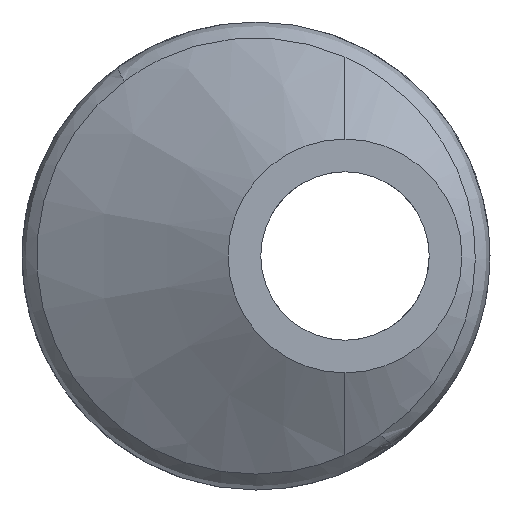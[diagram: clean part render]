
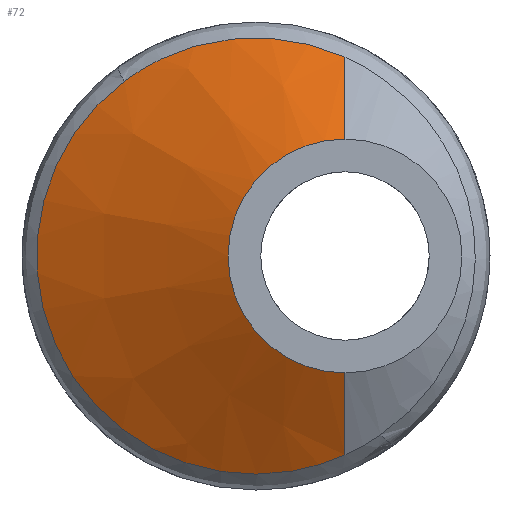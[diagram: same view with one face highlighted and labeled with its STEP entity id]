
A CAD part, left-side view. The second image highlights one B-rep face of the part: STEP entity #72.
In plain terms, the highlighted conical face has half-angle 60.409 degrees and reference radius 3.174 mm.
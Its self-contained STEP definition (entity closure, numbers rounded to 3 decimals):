
#23 = LINE ( 'NONE', #876, #345 ) ;
#40 = CARTESIAN_POINT ( 'NONE',  ( -26.348, 1.938, 5.61 ) ) ;
#69 = AXIS2_PLACEMENT_3D ( 'NONE', #1088, #416, #992 ) ;
#72 = ADVANCED_FACE ( 'NONE', ( #284 ), #759, .T. ) ;
#84 = LINE ( 'NONE', #721, #1074 ) ;
#85 = CARTESIAN_POINT ( 'NONE',  ( -26.317, 2.096, -5.559 ) ) ;
#90 = CARTESIAN_POINT ( 'NONE',  ( -25.632, 5.916, -0.674 ) ) ;
#93 = CARTESIAN_POINT ( 'NONE',  ( -25.852, 4.626, 3.75 ) ) ;
#109 = AXIS2_PLACEMENT_3D ( 'NONE', #524, #1004, #802 ) ;
#111 = CARTESIAN_POINT ( 'NONE',  ( -26.117, 3.146, 5.062 ) ) ;
#133 = CARTESIAN_POINT ( 'NONE',  ( -26.397, 1.688, 5.689 ) ) ;
#182 = CARTESIAN_POINT ( 'NONE',  ( -27.311, -2.415, -5.4 ) ) ;
#185 = CARTESIAN_POINT ( 'NONE',  ( -26.131, 3.072, -5.091 ) ) ;
#187 = CARTESIAN_POINT ( 'NONE',  ( -25.626, 5.953, -0.129 ) ) ;
#224 = EDGE_CURVE ( 'NONE', #328, #1172, #413, .T. ) ;
#275 = CARTESIAN_POINT ( 'NONE',  ( -27.146, -1.755, -5.661 ) ) ;
#278 = CARTESIAN_POINT ( 'NONE',  ( -25.973, 3.942, -4.458 ) ) ;
#284 = FACE_OUTER_BOUND ( 'NONE', #1106, .T. ) ;
#288 = CARTESIAN_POINT ( 'NONE',  ( -25.987, 3.863, 4.526 ) ) ;
#324 = CARTESIAN_POINT ( 'NONE',  ( -26.717, 0.128, 5.943 ) ) ;
#328 = VERTEX_POINT ( 'NONE', #1134 ) ;
#345 = VECTOR ( 'NONE', #583, 1000. ) ;
#354 = CARTESIAN_POINT ( 'NONE',  ( -27.311, -2.415, 5.4 ) ) ;
#374 = CARTESIAN_POINT ( 'NONE',  ( -26.903, -0.712, -5.886 ) ) ;
#378 = CARTESIAN_POINT ( 'NONE',  ( -25.84, 4.692, -3.668 ) ) ;
#381 = CARTESIAN_POINT ( 'NONE',  ( -25.657, 5.77, 1.499 ) ) ;
#382 = VERTEX_POINT ( 'NONE', #354 ) ;
#413 = B_SPLINE_CURVE_WITH_KNOTS ( 'NONE', 3,
 ( #762, #288, #811, #93, #665, #1244, #572, #1150, #474, #1051, #381, #953, #859, #187, #756, #90, #661, #1238, #569, #1147, #468, #1047, #378, #951, #278, #857, #185, #754, #85, #660, #1235, #564, #1142, #466, #1045, #374, #949, #275, #852, #182 ),
 .UNSPECIFIED., .F., .F.,
 ( 4, 2, 2, 2, 2, 2, 2, 2, 2, 2, 2, 2, 2, 2, 2, 2, 2, 2, 2, 4 ),
 ( 0.019, 0.02, 0.021, 0.022, 0.022, 0.023, 0.024, 0.025, 0.026, 0.027, 0.028, 0.029, 0.03, 0.031, 0.032, 0.033, 0.034, 0.034, 0.035, 0.036 ),
 .UNSPECIFIED. ) ;
#416 = DIRECTION ( 'NONE',  ( 1., 0., 0. ) ) ;
#422 = CARTESIAN_POINT ( 'NONE',  ( -27.07, -1.438, 5.763 ) ) ;
#466 = CARTESIAN_POINT ( 'NONE',  ( -26.747, -0.005, -5.923 ) ) ;
#468 = CARTESIAN_POINT ( 'NONE',  ( -25.739, 5.282, -2.757 ) ) ;
#474 = CARTESIAN_POINT ( 'NONE',  ( -25.708, 5.467, 2.352 ) ) ;
#475 = ORIENTED_EDGE ( 'NONE', *, *, #1163, .T. ) ;
#481 = ORIENTED_EDGE ( 'NONE', *, *, #773, .F. ) ;
#524 = CARTESIAN_POINT ( 'NONE',  ( -28.575, -2.415, 0. ) ) ;
#535 = CARTESIAN_POINT ( 'NONE',  ( -28.575, -2.415, -3.174 ) ) ;
#564 = CARTESIAN_POINT ( 'NONE',  ( -26.633, 0.532, -5.902 ) ) ;
#569 = CARTESIAN_POINT ( 'NONE',  ( -25.668, 5.699, -1.747 ) ) ;
#572 = CARTESIAN_POINT ( 'NONE',  ( -25.748, 5.227, 2.842 ) ) ;
#583 = DIRECTION ( 'NONE',  ( 0.494, 0., 0.87 ) ) ;
#587 = CARTESIAN_POINT ( 'NONE',  ( -26.205, 2.674, 5.323 ) ) ;
#605 = B_SPLINE_CURVE_WITH_KNOTS ( 'NONE', 3,
 ( #620, #1005, #422, #996, #324, #902, #799, #133, #40, #587, #111, #1073 ),
 .UNSPECIFIED., .F., .F.,
 ( 4, 2, 2, 2, 2, 4 ),
 ( 0.013, 0.014, 0.016, 0.017, 0.017, 0.019 ),
 .UNSPECIFIED. ) ;
#620 = CARTESIAN_POINT ( 'NONE',  ( -27.311, -2.415, 5.4 ) ) ;
#660 = CARTESIAN_POINT ( 'NONE',  ( -26.451, 1.414, -5.767 ) ) ;
#661 = CARTESIAN_POINT ( 'NONE',  ( -25.636, 5.892, -0.857 ) ) ;
#665 = CARTESIAN_POINT ( 'NONE',  ( -25.814, 4.845, 3.464 ) ) ;
#666 = CIRCLE ( 'NONE', #69, 3.174 ) ;
#721 = CARTESIAN_POINT ( 'NONE',  ( -28.575, -2.415, -3.174 ) ) ;
#739 = CARTESIAN_POINT ( 'NONE',  ( -28.575, -2.415, 3.174 ) ) ;
#754 = CARTESIAN_POINT ( 'NONE',  ( -26.252, 2.433, -5.422 ) ) ;
#756 = CARTESIAN_POINT ( 'NONE',  ( -25.627, 5.946, -0.31 ) ) ;
#759 = CONICAL_SURFACE ( 'NONE', #109, 3.174, 1.054 ) ;
#762 = CARTESIAN_POINT ( 'NONE',  ( -26.04, 3.573, 4.743 ) ) ;
#773 = EDGE_CURVE ( 'NONE', #1115, #1172, #84, .T. ) ;
#799 = CARTESIAN_POINT ( 'NONE',  ( -26.5, 1.175, 5.814 ) ) ;
#802 = DIRECTION ( 'NONE',  ( 0., 0., -1. ) ) ;
#810 = DIRECTION ( 'NONE',  ( 0.494, 0., -0.87 ) ) ;
#811 = CARTESIAN_POINT ( 'NONE',  ( -25.938, 4.136, 4.281 ) ) ;
#818 = VERTEX_POINT ( 'NONE', #739 ) ;
#852 = CARTESIAN_POINT ( 'NONE',  ( -27.229, -2.093, -5.544 ) ) ;
#857 = CARTESIAN_POINT ( 'NONE',  ( -26.076, 3.374, -4.898 ) ) ;
#859 = CARTESIAN_POINT ( 'NONE',  ( -25.627, 5.948, 0.415 ) ) ;
#876 = CARTESIAN_POINT ( 'NONE',  ( -28.575, -2.415, 3.174 ) ) ;
#902 = CARTESIAN_POINT ( 'NONE',  ( -26.553, 0.912, 5.86 ) ) ;
#912 = EDGE_CURVE ( 'NONE', #818, #382, #23, .T. ) ;
#949 = CARTESIAN_POINT ( 'NONE',  ( -26.983, -1.062, -5.832 ) ) ;
#951 = CARTESIAN_POINT ( 'NONE',  ( -25.925, 4.211, -4.207 ) ) ;
#953 = CARTESIAN_POINT ( 'NONE',  ( -25.633, 5.911, 0.778 ) ) ;
#992 = DIRECTION ( 'NONE',  ( 0., 0., -1. ) ) ;
#996 = CARTESIAN_POINT ( 'NONE',  ( -26.831, -0.396, 5.929 ) ) ;
#1004 = DIRECTION ( 'NONE',  ( 1., 0., 0. ) ) ;
#1005 = CARTESIAN_POINT ( 'NONE',  ( -27.19, -1.937, 5.613 ) ) ;
#1044 = ORIENTED_EDGE ( 'NONE', *, *, #224, .T. ) ;
#1045 = CARTESIAN_POINT ( 'NONE',  ( -26.786, -0.182, -5.92 ) ) ;
#1047 = CARTESIAN_POINT ( 'NONE',  ( -25.803, 4.906, -3.378 ) ) ;
#1051 = CARTESIAN_POINT ( 'NONE',  ( -25.674, 5.667, 1.847 ) ) ;
#1056 = ORIENTED_EDGE ( 'NONE', *, *, #1191, .T. ) ;
#1063 = ORIENTED_EDGE ( 'NONE', *, *, #912, .T. ) ;
#1073 = CARTESIAN_POINT ( 'NONE',  ( -26.04, 3.573, 4.743 ) ) ;
#1074 = VECTOR ( 'NONE', #810, 1000. ) ;
#1088 = CARTESIAN_POINT ( 'NONE',  ( -28.575, -2.415, 0. ) ) ;
#1093 = CARTESIAN_POINT ( 'NONE',  ( -27.311, -2.415, -5.4 ) ) ;
#1106 = EDGE_LOOP ( 'NONE', ( #1056, #1063, #475, #1044, #481 ) ) ;
#1115 = VERTEX_POINT ( 'NONE', #535 ) ;
#1134 = CARTESIAN_POINT ( 'NONE',  ( -26.04, 3.573, 4.743 ) ) ;
#1142 = CARTESIAN_POINT ( 'NONE',  ( -26.671, 0.352, -5.914 ) ) ;
#1147 = CARTESIAN_POINT ( 'NONE',  ( -25.711, 5.444, -2.425 ) ) ;
#1150 = CARTESIAN_POINT ( 'NONE',  ( -25.72, 5.392, 2.518 ) ) ;
#1163 = EDGE_CURVE ( 'NONE', #382, #328, #605, .T. ) ;
#1172 = VERTEX_POINT ( 'NONE', #1093 ) ;
#1191 = EDGE_CURVE ( 'NONE', #1115, #818, #666, .T. ) ;
#1235 = CARTESIAN_POINT ( 'NONE',  ( -26.522, 1.065, -5.84 ) ) ;
#1238 = CARTESIAN_POINT ( 'NONE',  ( -25.652, 5.796, -1.397 ) ) ;
#1244 = CARTESIAN_POINT ( 'NONE',  ( -25.764, 5.136, 3.002 ) ) ;
